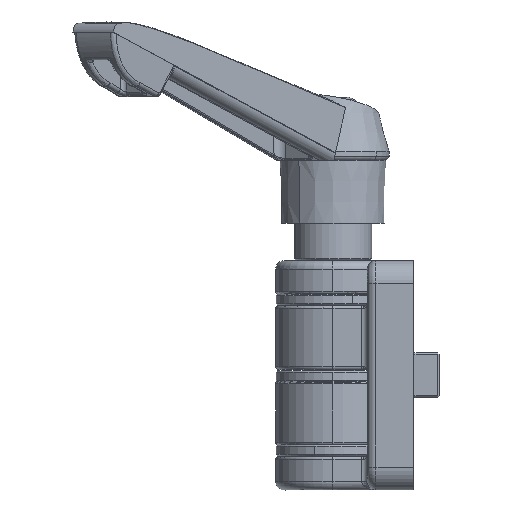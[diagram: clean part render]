
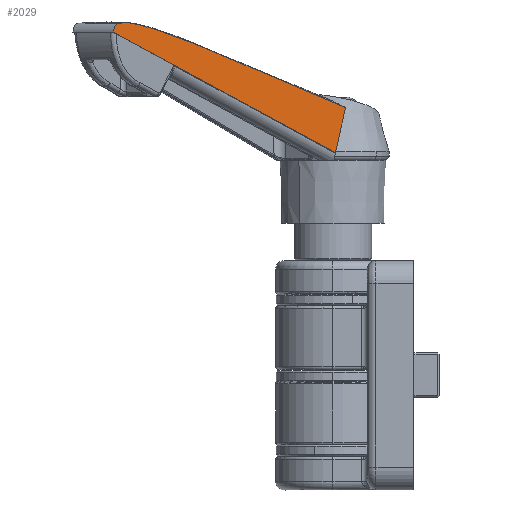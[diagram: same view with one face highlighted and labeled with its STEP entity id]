
A CAD part, left-side view. The second image highlights one B-rep face of the part: STEP entity #2029.
In plain terms, the highlighted planar face has unit normal (-0.659, -0.751, 0.036).
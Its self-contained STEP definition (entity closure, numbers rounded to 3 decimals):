
#2029=ADVANCED_FACE('NONE',(#5033),#5034,.T.);
#5033=FACE_OUTER_BOUND('',#9648,.T.);
#5034=PLANE('',#9649);
#9648=EDGE_LOOP('',(#17654,#17655,#17656,#17657,#17658,#17659,#17660,#17661));
#9649=AXIS2_PLACEMENT_3D('',#17662,#17663,#17664);
#17654=ORIENTED_EDGE('',*,*,#28223,.T.);
#17655=ORIENTED_EDGE('',*,*,#27748,.T.);
#17656=ORIENTED_EDGE('',*,*,#28224,.T.);
#17657=ORIENTED_EDGE('',*,*,#28225,.F.);
#17658=ORIENTED_EDGE('',*,*,#28226,.T.);
#17659=ORIENTED_EDGE('',*,*,#28227,.F.);
#17660=ORIENTED_EDGE('',*,*,#28228,.T.);
#17661=ORIENTED_EDGE('',*,*,#28229,.T.);
#17662=CARTESIAN_POINT('',(-4.487,-4.785,66.31));
#17663=DIRECTION('',(-0.659,-0.751,0.036));
#17664=DIRECTION('',(0.752,-0.659,0.));
#27748=EDGE_CURVE('NONE',#33213,#33210,#33214,.T.);
#28223=EDGE_CURVE('NONE',#33964,#33213,#33965,.T.);
#28224=EDGE_CURVE('NONE',#33210,#33966,#33967,.T.);
#28225=EDGE_CURVE('NONE',#33968,#33966,#33969,.T.);
#28226=EDGE_CURVE('NONE',#33968,#33970,#33971,.T.);
#28227=EDGE_CURVE('NONE',#33972,#33970,#33973,.T.);
#28228=EDGE_CURVE('NONE',#33972,#33974,#33975,.T.);
#28229=EDGE_CURVE('NONE',#33974,#33964,#33976,.T.);
#33210=VERTEX_POINT('NONE',#42492);
#33213=VERTEX_POINT('NONE',#42496);
#33214=(B_SPLINE_CURVE(3,(#42498,#42499,#42500,#42501),.UNSPECIFIED.,.F.,.F.)B_SPLINE_CURVE_WITH_KNOTS((4,4),(5.843,7.305),.UNSPECIFIED.)RATIONAL_B_SPLINE_CURVE((1.0,0.83,0.83,1.0))BOUNDED_CURVE()REPRESENTATION_ITEM('')GEOMETRIC_REPRESENTATION_ITEM()CURVE());
#33964=VERTEX_POINT('NONE',#44048);
#33965=B_SPLINE_CURVE_WITH_KNOTS('',3,(#44049,#44050,#44051,#44052,#44053,#44054),.UNSPECIFIED.,.F.,.F.,(4,2,4),(0.,0.005,0.011),.UNSPECIFIED.);
#33966=VERTEX_POINT('NONE',#44055);
#33967=(B_SPLINE_CURVE(3,(#44057,#44058,#44059,#44060),.UNSPECIFIED.,.F.,.F.)B_SPLINE_CURVE_WITH_KNOTS((4,4),(1.022,1.066),.UNSPECIFIED.)RATIONAL_B_SPLINE_CURVE((1.0,1.,1.,1.0))BOUNDED_CURVE()REPRESENTATION_ITEM('')GEOMETRIC_REPRESENTATION_ITEM()CURVE());
#33968=VERTEX_POINT('NONE',#44067);
#33969=LINE('',#44068,#44069);
#33970=VERTEX_POINT('NONE',#44070);
#33971=(B_SPLINE_CURVE(3,(#44072,#44073,#44074,#44075),.UNSPECIFIED.,.F.,.F.)B_SPLINE_CURVE_WITH_KNOTS((4,4),(0.8,0.801),.UNSPECIFIED.)RATIONAL_B_SPLINE_CURVE((1.0,1.,1.,1.0))BOUNDED_CURVE()REPRESENTATION_ITEM('')GEOMETRIC_REPRESENTATION_ITEM()CURVE());
#33972=VERTEX_POINT('NONE',#44082);
#33973=B_SPLINE_CURVE_WITH_KNOTS('',3,(#44083,#44084,#44085,#44086,#44087,#44088),.UNSPECIFIED.,.F.,.F.,(4,2,4),(0.0,0.004,0.008),.UNSPECIFIED.);
#33974=VERTEX_POINT('NONE',#44089);
#33975=B_SPLINE_CURVE_WITH_KNOTS('',3,(#44090,#44091,#44092,#44093),.UNSPECIFIED.,.F.,.F.,(4,4),(0.,0.041),.UNSPECIFIED.);
#33976=B_SPLINE_CURVE_WITH_KNOTS('',3,(#44094,#44095,#44096,#44097),.UNSPECIFIED.,.F.,.F.,(4,4),(0.,0.01),.UNSPECIFIED.);
#42492=CARTESIAN_POINT('',(-52.781,38.222,79.859));
#42496=CARTESIAN_POINT('',(-51.707,37.353,81.4));
#42498=CARTESIAN_POINT('',(-51.707,37.353,81.4));
#42499=CARTESIAN_POINT('',(-52.331,37.896,81.31));
#42500=CARTESIAN_POINT('',(-52.762,38.245,80.691));
#42501=CARTESIAN_POINT('',(-52.781,38.222,79.859));
#44048=CARTESIAN_POINT('',(-43.891,30.436,80.126));
#44049=CARTESIAN_POINT('',(-43.891,30.436,80.126));
#44050=CARTESIAN_POINT('',(-45.181,31.585,80.48));
#44051=CARTESIAN_POINT('',(-46.463,32.728,80.884));
#44052=CARTESIAN_POINT('',(-49.067,35.04,81.442));
#44053=CARTESIAN_POINT('',(-50.377,36.196,81.598));
#44054=CARTESIAN_POINT('',(-51.707,37.353,81.4));
#44055=CARTESIAN_POINT('',(-52.782,38.219,79.79));
#44057=CARTESIAN_POINT('',(-52.781,38.222,79.859));
#44058=CARTESIAN_POINT('',(-52.782,38.221,79.836));
#44059=CARTESIAN_POINT('',(-52.782,38.22,79.813));
#44060=CARTESIAN_POINT('',(-52.782,38.219,79.79));
#44067=CARTESIAN_POINT('',(-9.788,-0.493,58.807));
#44068=CARTESIAN_POINT('',(-6.956,-3.043,57.425));
#44069=VECTOR('',#54759,1000.0);
#44070=CARTESIAN_POINT('',(-9.788,-0.484,59.));
#44072=CARTESIAN_POINT('',(-9.788,-0.493,58.807));
#44073=CARTESIAN_POINT('',(-9.788,-0.49,58.871));
#44074=CARTESIAN_POINT('',(-9.788,-0.487,58.936));
#44075=CARTESIAN_POINT('',(-9.788,-0.484,59.));
#44082=CARTESIAN_POINT('',(-7.429,-2.187,66.671));
#44083=CARTESIAN_POINT('',(-7.429,-2.187,66.671));
#44084=CARTESIAN_POINT('',(-7.877,-1.854,65.42));
#44085=CARTESIAN_POINT('',(-8.282,-1.56,64.148));
#44086=CARTESIAN_POINT('',(-9.058,-1.001,61.586));
#44087=CARTESIAN_POINT('',(-9.428,-0.738,60.295));
#44088=CARTESIAN_POINT('',(-9.788,-0.484,59.));
#44089=CARTESIAN_POINT('',(-36.798,24.105,77.816));
#44090=CARTESIAN_POINT('',(-7.429,-2.187,66.671));
#44091=CARTESIAN_POINT('',(-17.213,6.573,70.411));
#44092=CARTESIAN_POINT('',(-27.003,15.337,74.124));
#44093=CARTESIAN_POINT('',(-36.798,24.105,77.816));
#44094=CARTESIAN_POINT('',(-36.798,24.105,77.816));
#44095=CARTESIAN_POINT('',(-39.138,26.199,78.698));
#44096=CARTESIAN_POINT('',(-41.504,28.312,79.468));
#44097=CARTESIAN_POINT('',(-43.891,30.436,80.126));
#54759=DIRECTION('',(-0.699,0.629,0.341));
